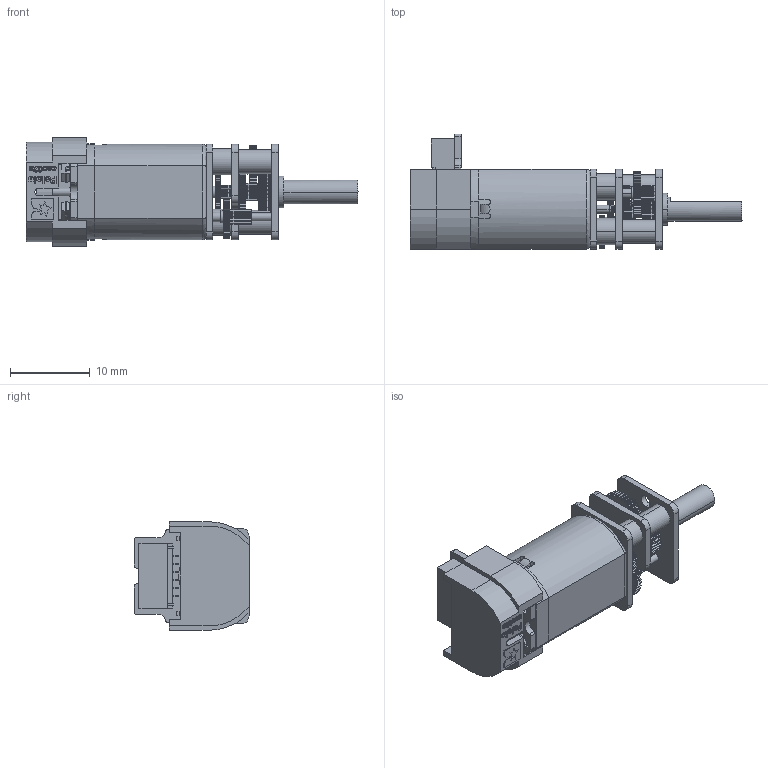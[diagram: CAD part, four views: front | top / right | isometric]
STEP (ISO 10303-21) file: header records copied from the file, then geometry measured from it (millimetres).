
FILE_DESCRIPTION (( 'STEP AP214' ), '1' );
FILE_NAME ('customer_step_mmgm_cas02_enc03d_2.STEP', '2024-04-24T03:12:44', ( '' ), ( '' ), 'SwSTEP 2.0', 'SolidWorks 2023', '' );
FILE_SCHEMA (( 'AUTOMOTIVE_DESIGN' ));
Length unit declared in the file: millimetre
Products named in the file (1): customer_step_mmgm_cas02_enc03d_2
Bounding box: 41.6 x 14.5 x 13.6 mm (x, y, z)
Volume: 2730 mm3; surface area: 3351.9 mm2
Topology: 1 solids, 5 shells, 2822 faces, 8336 edges, 5608 vertices
Faces by surface type: cylinder 1299, plane 1083, bspline 424, torus 10, cone 6
Entity records: 145824 total; most frequent: CARTESIAN_POINT 48727, ORIENTED_EDGE 16672, DIRECTION 9485, EDGE_CURVE 8336, VERTEX_POINT 5608, B_SPLINE_CURVE_WITH_KNOTS 4668, AXIS2_PLACEMENT_3D 3446, EDGE_LOOP 2968
